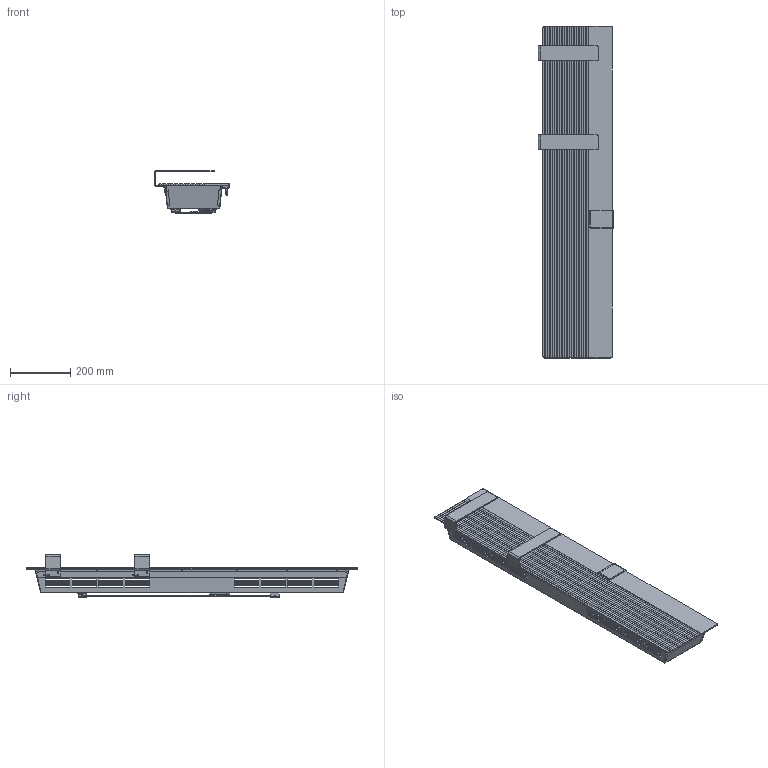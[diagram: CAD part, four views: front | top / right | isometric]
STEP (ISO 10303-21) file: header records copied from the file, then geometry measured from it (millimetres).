
FILE_DESCRIPTION(('FreeCAD Model'),'2;1');
FILE_NAME('Open CASCADE Shape Model','2026-06-16T14:25:11',(''),(''), 'Open CASCADE STEP processor 7.8','FreeCAD','Unknown');
FILE_SCHEMA(('AUTOMOTIVE_DESIGN { 1 0 10303 214 1 1 1 1 }'));
Length unit declared in the file: millimetre
Products named in the file (13): Unnamed; MIK_GR-POSTERIORE-500_ASM; MIK_POSTERIORE-500; DEK_AGGANCIO-SUPPORTO; ONS_GR-COMANDI_ASM; ONS_FONDO-SCATOLA-COMANDI; ONS_MASCHERINA-COMANDI; MIK_FRONTALE-500; MIK_BARRA-PORTASALVIETTE; MIK_GR-SUPPORTO-MIKADO-500_ASM; MIK_SUPPORTO-MURALE_25-MIKADO; KLI_TRAVERSA-SUPPORTO_MAX; MIK_SUPPORTO-MURALE-IN_25-MIK
Assembly tree (14 placements, depth 3):
  Unnamed
    MIK_GR-POSTERIORE-500_ASM
      MIK_POSTERIORE-500
      DEK_AGGANCIO-SUPPORTO  x2
    ONS_GR-COMANDI_ASM
      ONS_FONDO-SCATOLA-COMANDI
    ONS_MASCHERINA-COMANDI
    MIK_FRONTALE-500
    MIK_BARRA-PORTASALVIETTE  x2
    MIK_GR-SUPPORTO-MIKADO-500_ASM
      MIK_SUPPORTO-MURALE_25-MIKADO
      KLI_TRAVERSA-SUPPORTO_MAX
      MIK_SUPPORTO-MURALE-IN_25-MIK
Bounding box: 248.66 x 1100 x 142.2 mm (x, y, z)
Volume: 1578104.2 mm3; surface area: 1520304 mm2
Topology: 11 solids, 11 shells, 2197 faces, 6075 edges, 3874 vertices
Faces by surface type: plane 1262, cylinder 630, bspline 162, cone 80, torus 51, sphere 12
Entity records: 78886 total; most frequent: CARTESIAN_POINT 25598, ORIENTED_EDGE 11698, DIRECTION 9972, EDGE_CURVE 5849, LINE 3932, VECTOR 3932, VERTEX_POINT 3746, AXIS2_PLACEMENT_3D 3020
